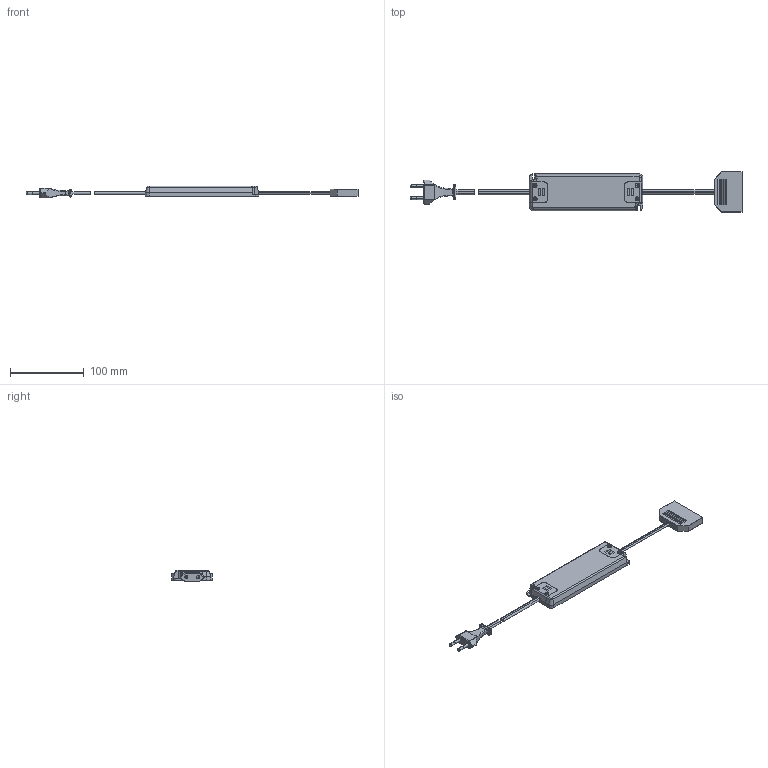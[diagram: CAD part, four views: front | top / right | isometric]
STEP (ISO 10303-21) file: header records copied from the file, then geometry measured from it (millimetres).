
FILE_DESCRIPTION (( 'STEP AP203' ), '1' );
FILE_NAME ('LED_EVG_12VDC_40W_24.STEP', '2024-12-03T11:04:27', ( '' ), ( '' ), 'SwSTEP 2.0', 'SolidWorks 2023', '' );
FILE_SCHEMA (( 'CONFIG_CONTROL_DESIGN' ));
Length unit declared in the file: millimetre
Products named in the file (4): Euroflachstecker_DAM_weiss; LED_EVG_12VDC_40W_24; 3048812; 6fach_Verteiler_schwarz_mit_L=150mm_2x0,75_Kabel
Assembly tree (3 placements, depth 2):
  LED_EVG_12VDC_40W_24
    3048812
    Euroflachstecker_DAM_weiss
    6fach_Verteiler_schwarz_mit_L=150mm_2x0,75_Kabel
Bounding box: 451.45 x 55 x 16 mm (x, y, z)
Volume: 126559.3 mm3; surface area: 41244.1 mm2
Topology: 4 solids, 4 shells, 557 faces, 1406 edges, 866 vertices
Faces by surface type: plane 349, cylinder 135, sphere 37, bspline 22, torus 12, cone 2
Entity records: 17434 total; most frequent: CARTESIAN_POINT 3855, ORIENTED_EDGE 2744, DIRECTION 2694, EDGE_CURVE 1372, LINE 1002, VECTOR 1002, VERTEX_POINT 859, AXIS2_PLACEMENT_3D 846
